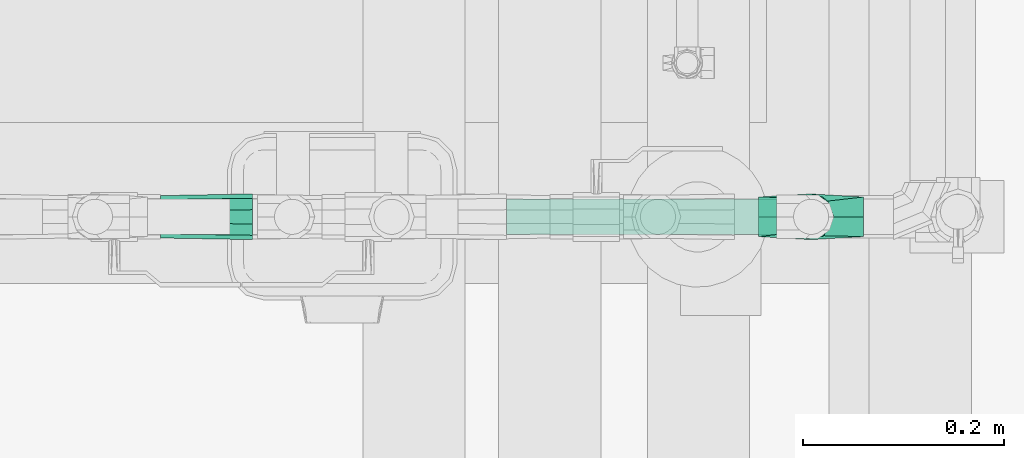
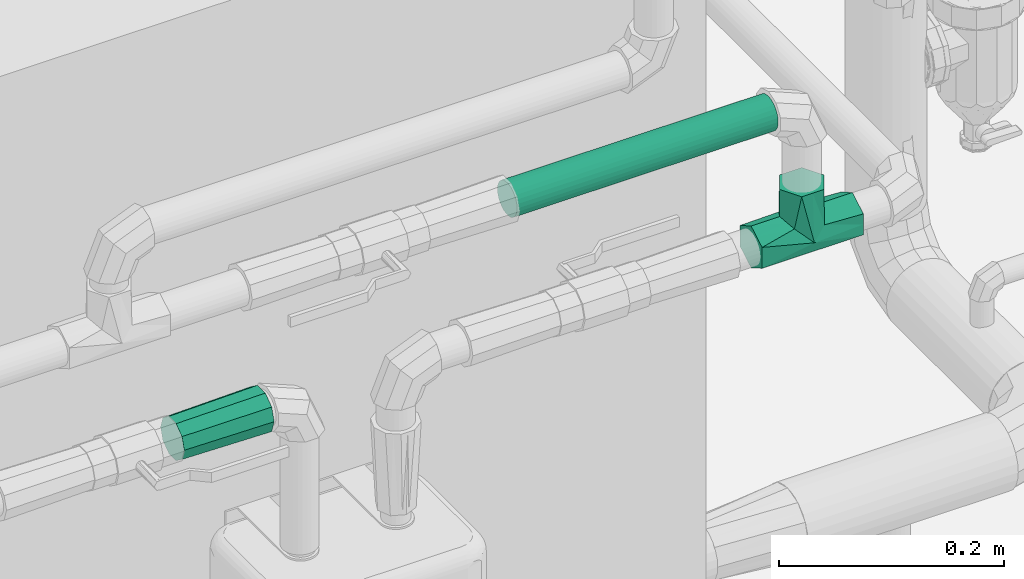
# One storey, part 17 of 43: 2 flow fittings, 1 flow segment.
"""IFC2X3 building model written with IfcOpenShell, lengths in millimetres."""

from ifc_helpers import new_model, entity, si_unit, converted_unit, derived_unit, direction, frame, origin, origin_2d_with_axis, place, context, subcontext, project, spatial, circle, extrude, faceted_brep, source, transform, mapped, material, type_object, type_shapes, element, save


model = new_model("IFC2X3")

# Units and contexts
model_context = context("Model", 3, precision=0.01, world=origin(), true_north=direction((6.123031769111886e-17, 1.0)))
body_context = subcontext(model_context, "Body", "Model", "MODEL_VIEW")
ifc_project = project(units=[si_unit("LENGTHUNIT", "METRE", prefix="MILLI"), si_unit("AREAUNIT", "SQUARE_METRE"), si_unit("VOLUMEUNIT", "CUBIC_METRE"), converted_unit("PLANEANGLEUNIT", "DEGREE", entity("IfcRatioMeasure", 0.017453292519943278), si_unit("PLANEANGLEUNIT", "RADIAN"), dimensions=[0, 0, 0, 0, 0, 0, 0]), si_unit("MASSUNIT", "GRAM", prefix="KILO"), derived_unit("MASSDENSITYUNIT", [(si_unit("MASSUNIT", "GRAM", prefix="KILO"), 1), (si_unit("LENGTHUNIT", "METRE"), -3)]), derived_unit("MOMENTOFINERTIAUNIT", [(si_unit("LENGTHUNIT", "METRE"), 4)]), si_unit("TIMEUNIT", "SECOND"), si_unit("FREQUENCYUNIT", "HERTZ"), si_unit("THERMODYNAMICTEMPERATUREUNIT", "DEGREE_CELSIUS"), derived_unit("THERMALTRANSMITTANCEUNIT", [(si_unit("MASSUNIT", "GRAM", prefix="KILO"), 1), (si_unit("THERMODYNAMICTEMPERATUREUNIT", "KELVIN"), -1), (si_unit("TIMEUNIT", "SECOND"), -3)]), derived_unit("VOLUMETRICFLOWRATEUNIT", [(si_unit("LENGTHUNIT", "METRE"), 3), (si_unit("TIMEUNIT", "SECOND"), -1)]), derived_unit("MASSFLOWRATEUNIT", [(si_unit("MASSUNIT", "GRAM", prefix="KILO"), 1), (si_unit("TIMEUNIT", "SECOND"), -1)]), derived_unit("ROTATIONALFREQUENCYUNIT", [(si_unit("TIMEUNIT", "SECOND"), -1)]), si_unit("ELECTRICCURRENTUNIT", "AMPERE"), si_unit("ELECTRICVOLTAGEUNIT", "VOLT"), si_unit("POWERUNIT", "WATT"), si_unit("FORCEUNIT", "NEWTON", prefix="KILO"), si_unit("ILLUMINANCEUNIT", "LUX"), si_unit("LUMINOUSFLUXUNIT", "LUMEN"), si_unit("LUMINOUSINTENSITYUNIT", "CANDELA"), derived_unit("USERDEFINED", [(si_unit("MASSUNIT", "GRAM", prefix="KILO"), -1), (si_unit("LENGTHUNIT", "METRE"), -2), (si_unit("TIMEUNIT", "SECOND"), 3), (si_unit("LUMINOUSFLUXUNIT", "LUMEN"), 1)]), derived_unit("SOUNDPOWERUNIT", [(si_unit("MASSUNIT", "GRAM", prefix="KILO"), 1), (si_unit("LENGTHUNIT", "METRE"), 2), (si_unit("TIMEUNIT", "SECOND"), -3)]), derived_unit("SOUNDPRESSUREUNIT", [(si_unit("MASSUNIT", "GRAM", prefix="KILO"), 1), (si_unit("LENGTHUNIT", "METRE"), -1), (si_unit("TIMEUNIT", "SECOND"), -2)]), derived_unit("LINEARVELOCITYUNIT", [(si_unit("LENGTHUNIT", "METRE"), 1), (si_unit("TIMEUNIT", "SECOND"), -1)]), si_unit("PRESSUREUNIT", "PASCAL"), derived_unit("USERDEFINED", [(si_unit("LENGTHUNIT", "METRE"), -2), (si_unit("MASSUNIT", "GRAM", prefix="KILO"), 1), (si_unit("TIMEUNIT", "SECOND"), -2)]), derived_unit("LINEARFORCEUNIT", [(si_unit("MASSUNIT", "GRAM", prefix="KILO"), 1), (si_unit("LENGTHUNIT", "METRE"), 1), (si_unit("TIMEUNIT", "SECOND"), -2), (si_unit("LENGTHUNIT", "METRE"), -1)]), derived_unit("PLANARFORCEUNIT", [(si_unit("MASSUNIT", "GRAM", prefix="KILO"), 1), (si_unit("LENGTHUNIT", "METRE"), 1), (si_unit("TIMEUNIT", "SECOND"), -2), (si_unit("LENGTHUNIT", "METRE"), -2)])], contexts=[model_context])

# Site, building, storey
site_placement = place(None, origin())
site = spatial("IfcSite", under=ifc_project, at=site_placement, Name="Default", CompositionType="ELEMENT")
building_placement = place(site_placement, origin())
building = spatial("IfcBuilding", under=site, at=building_placement, CompositionType="ELEMENT")
storey_placement = place(building_placement, frame((0.0, 0.0, 270.0)))
storey = spatial("IfcBuildingStorey", under=building, at=storey_placement, Name="Niveau 0", CompositionType="ELEMENT", Elevation=270.0)

# Flow segment
pipe_segment_type = type_object("IfcPipeSegmentType", Name="Canalisation:tuyau cuivre", PredefinedType="NOTDEFINED")
flow_segment_placement = place(storey_placement, origin())
element("IfcFlowSegment", 1, at=flow_segment_placement, inside=storey, type_object=pipe_segment_type, Name="Canalisation:tuyau cuivre", ObjectType="Canalisation:tuyau cuivre", context=body_context, shape_type="SweptSolid", body=[
    extrude(circle(Radius=17.5, at=origin_2d_with_axis()), frame((-2411.061519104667, -9894.089173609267, 1260.5000000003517), z_axis=(1.0, 0.0, 0.0), x_axis=(0.0, -1.0, 0.0)), (0.0, 0.0, 1.0), 268.30546875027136),
])

# Flow fittings
ifc_material = material(Name="<Unnamed>")
pipe_fitting_type_1 = type_object("IfcPipeFittingType", Name="Transformation - Générique:Standard", PredefinedType="NOTDEFINED", material=ifc_material)
shared_shape_1 = source(origin(), body_context, "Body", "Brep", [
    faceted_brep([(91.44531250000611, 17.057301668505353, -12.39285507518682), (91.44531250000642, 19.070643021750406, -6.196427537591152), (91.44531250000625, 21.083984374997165, 0.0), (91.44531250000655, 19.07064302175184, 6.196427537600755), (91.44531250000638, 17.05730166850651, 12.392855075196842), (91.4453125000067, 11.786305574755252, 16.222457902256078), (91.44531250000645, 6.515309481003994, 20.052060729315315), (91.44531250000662, 0.0, 20.052060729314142), (91.44531250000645, -6.51530948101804, 20.052060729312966), (91.44531250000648, -11.786305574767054, 16.222457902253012), (91.44531250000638, -17.057301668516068, 12.392855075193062), (91.44531250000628, -19.070643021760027, 6.196427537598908), (91.44531250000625, -21.083984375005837, 0.0), (91.44531250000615, -19.070643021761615, -6.196427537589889), (91.44531250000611, -17.057301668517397, -12.392855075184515), (91.44531250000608, -11.786305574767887, -16.22245790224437), (91.44531250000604, -6.515309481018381, -20.05206072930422), (91.44531250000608, 0.0, -20.052060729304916), (91.44531250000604, 6.5153094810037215, -20.052060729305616), (91.44531250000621, 11.78630557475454, -16.222457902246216), (0.0, 22.708984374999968, 0.0), (0.0, 20.556774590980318, -6.623820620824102), (0.0, 18.371954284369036, -13.348006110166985), (0.0, 12.694708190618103, -17.47276683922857), (0.0, 7.017462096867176, -21.59752756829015), (0.0, 0.0, -21.597527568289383), (0.0, -7.017462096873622, -21.59752756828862), (0.0, -12.694708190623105, -17.47276683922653), (0.0, -18.37195428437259, -13.348006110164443), (0.0, -20.556774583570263, -6.623820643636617), (0.0, -22.708984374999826, 0.0), (0.0, -20.556774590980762, 6.623820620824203), (0.0, -18.371954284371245, 13.348006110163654), (0.0, -12.694708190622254, 17.47276683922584), (0.0, -7.017462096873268, 21.597527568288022), (0.0, 0.0, 21.597527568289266), (0.0, 7.017462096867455, 21.597527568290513), (0.0, 12.694708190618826, 17.472766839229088), (0.0, 18.371954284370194, 13.348006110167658), (0.0, 20.556774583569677, 6.623820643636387)], [[[0, 1, 2, 3, 4, 5, 6, 7, 8, 9, 10, 11, 12, 13, 14, 15, 16, 17, 18, 19]], [[20, 21, 22, 23, 24, 25, 26, 27, 28, 29, 30, 31, 32, 33, 34, 35, 36, 37, 38, 39]], [[22, 21, 20, 2, 1, 0]], [[28, 14, 13, 12, 30, 29]], [[0, 19, 18, 24, 23, 22]], [[26, 25, 24, 18, 17, 16]], [[16, 15, 14, 28, 27, 26]], [[32, 31, 30, 12, 11, 10]], [[38, 4, 3, 2, 20, 39]], [[10, 9, 8, 34, 33, 32]], [[36, 35, 34, 8, 7, 6]], [[6, 5, 4, 38, 37, 36]]]),
])
type_shapes(pipe_fitting_type_1, [shared_shape_1])
flow_fitting_1_placement = place(storey_placement, frame((-2663.5787066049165, -9894.08917360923, 1120.5000000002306), z_axis=(0.0, 0.0, 1.0), x_axis=(-1.0, 0.0, 0.0)))
element("IfcFlowFitting", 2, at=flow_fitting_1_placement, inside=storey, type_object=pipe_fitting_type_1, material=ifc_material, Name="Transformation - Générique:Standard", ObjectType="Transformation - Générique:Standard", context=body_context, shape_type="MappedRepresentation", body=[
    mapped(shared_shape_1, transform((0.0, 0.0, 0.0), scale=1.0)),
])
pipe_fitting_type_2 = type_object("IfcPipeFittingType", Name="Té - Générique:Standard", PredefinedType="NOTDEFINED", material=ifc_material)
shared_shape_2 = source(origin(), body_context, "Body", "Brep", [
    faceted_brep([(-52.035937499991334, -22.70898437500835, 0.0), (-52.03593749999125, -19.870361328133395, 4.916639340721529), (-52.03593749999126, -17.031738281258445, 9.833278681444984), (-52.03593749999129, -11.35449218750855, 19.666557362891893), (-52.035937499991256, 0.0, 19.666557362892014), (-52.03593749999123, 11.354492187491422, 19.666557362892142), (-52.035937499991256, 17.031738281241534, 9.833278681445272), (-52.035937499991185, 22.708984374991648, 0.0), (-52.035937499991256, 17.03173828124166, -9.833278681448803), (-52.03593749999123, 11.35449218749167, -19.666557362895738), (-52.035937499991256, 0.0, -19.666557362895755), (-52.03593749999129, -11.354492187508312, -19.666557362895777), (-52.035937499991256, -17.031738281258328, -9.833278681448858), (52.03593750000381, -19.870361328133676, -4.916639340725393), (52.035937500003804, -17.031738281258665, -9.833278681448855), (52.03593750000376, -11.354492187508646, -19.666557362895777), (52.0359375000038, 0.0, -19.666557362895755), (52.03593750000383, 11.354492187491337, -19.666557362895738), (52.0359375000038, 18.37505250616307, -7.506590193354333), (52.035937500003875, 22.708984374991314, 0.0), (52.0359375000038, 17.031738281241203, 9.833278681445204), (52.03593750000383, 11.354492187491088, 19.666557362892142), (52.0359375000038, 0.0, 19.666557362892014), (52.03593750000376, -11.354492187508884, 19.666557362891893), (52.035937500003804, -17.031738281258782, 9.833278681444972), (52.03593750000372, -22.708984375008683, 0.0), (19.593842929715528, -19.593842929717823, 7.812655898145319), (16.47870148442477, -16.47870148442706, 15.625311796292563), (0.0, 0.0, 22.708984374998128), (-18.640273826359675, -18.640273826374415, 7.666504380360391), (-17.718472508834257, -17.718472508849, 9.403416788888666), (-12.727960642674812, -12.727960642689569, 18.806833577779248), (22.708984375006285, -22.70898437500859, 0.0), (-22.70898437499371, -22.70898437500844, 0.0), (18.640274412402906, -18.640274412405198, -7.666503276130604), (17.71847250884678, -17.718472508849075, -9.403416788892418), (12.727960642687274, -12.72796064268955, -18.80683357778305), (-19.593842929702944, -19.59384292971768, -7.812655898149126), (0.0, 0.0, -22.70898437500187), (-16.47870148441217, -16.478701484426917, -15.625311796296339), (-17.03173828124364, -52.03593750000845, -9.833278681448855), (-11.354492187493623, -52.03593750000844, -19.666557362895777), (0.0, -52.035937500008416, -19.666557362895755), (11.354492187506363, -52.03593750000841, -19.666557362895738), (18.375052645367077, -52.03593750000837, -7.506589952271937), (22.708984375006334, -52.03593750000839, 0.0), (17.031738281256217, -52.03593750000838, 9.833278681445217), (11.35449218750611, -52.03593750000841, 19.666557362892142), (0.0, -52.035937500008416, 19.666557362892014), (-11.354492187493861, -52.03593750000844, 19.666557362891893), (-18.375052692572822, -52.03593750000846, 7.506589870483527), (-22.708984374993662, -52.03593750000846, 0.0)], [[[0, 1, 2, 3, 4, 5, 6, 7, 8, 9, 10, 11, 12]], [[13, 14, 15, 16, 17, 18, 19, 20, 21, 22, 23, 24, 25]], [[26, 25, 24]], [[27, 24, 23]], [[28, 23, 22, 21]], [[2, 29, 30, 31]], [[2, 31, 3]], [[25, 26, 32]], [[0, 33, 1]], [[24, 27, 26]], [[23, 28, 27]], [[7, 6, 5, 21, 20, 19]], [[33, 29, 1]], [[31, 4, 3]], [[31, 28, 4]], [[5, 28, 21]], [[29, 2, 1]], [[28, 5, 4]], [[9, 8, 7, 19, 18, 17]], [[14, 34, 35, 36]], [[0, 37, 33]], [[9, 17, 38]], [[12, 39, 37]], [[10, 9, 38, 11]], [[34, 14, 13]], [[16, 15, 36]], [[32, 13, 25]], [[36, 15, 14]], [[39, 11, 38]], [[32, 34, 13]], [[12, 37, 0]], [[38, 17, 16]], [[39, 12, 11]], [[36, 38, 16]], [[40, 41, 42, 43, 44, 45, 46, 47, 48, 49, 50, 51]], [[30, 49, 31]], [[33, 51, 50]], [[50, 30, 29, 33]], [[31, 49, 48]], [[27, 47, 46]], [[32, 46, 45]], [[49, 30, 50]], [[31, 48, 28]], [[46, 32, 26, 27]], [[28, 48, 47]], [[28, 47, 27]], [[35, 43, 36]], [[38, 41, 39]], [[43, 35, 44]], [[44, 35, 34, 32]], [[36, 43, 42]], [[33, 40, 51]], [[32, 45, 44]], [[39, 41, 40]], [[36, 42, 38]], [[40, 33, 37, 39]], [[38, 42, 41]]]),
])
type_shapes(pipe_fitting_type_2, [shared_shape_2])
flow_fitting_2_placement = place(storey_placement, frame((-2108.544331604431, -9894.089173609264, 1120.499999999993), z_axis=(0.0, 1.0, 0.0), x_axis=(1.0, 0.0, 0.0)))
element("IfcFlowFitting", 3, at=flow_fitting_2_placement, inside=storey, type_object=pipe_fitting_type_2, material=ifc_material, Name="Té - Générique:Standard", ObjectType="Té - Générique:Standard", context=body_context, shape_type="MappedRepresentation", body=[
    mapped(shared_shape_2, transform((0.0, 0.0, 0.0), scale=1.0)),
])

save(model, "model.ifc")
